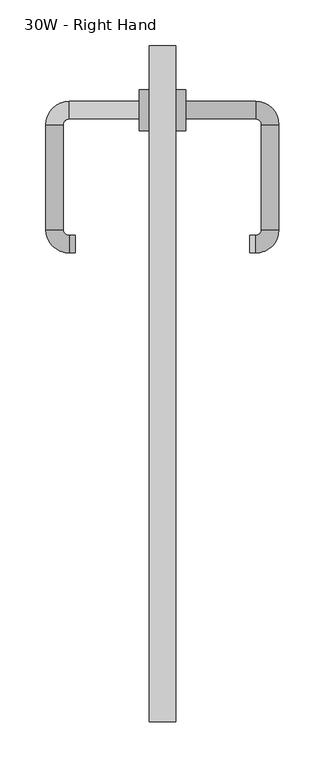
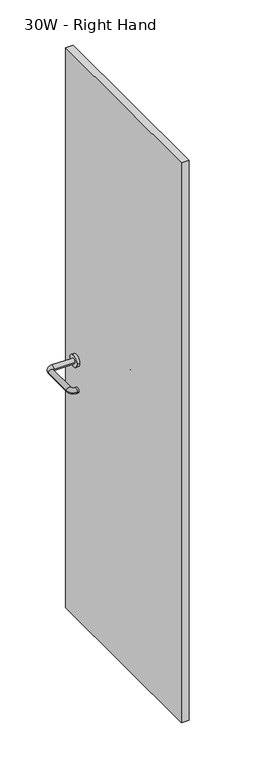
"""IFC4 building model written with IfcOpenShell, lengths in millimetres: furniture geometry, Steelcase - Montage - Door - Hinged Door : 30W - Right Hand."""

from ifc_helpers import new_model, si_unit, point, frame, frame_2d, origin, origin_with_axes, place, context, project, spatial, polyline, circle_curve, ellipse_curve, trimmed, segment, composite_curve, outline, extrude, source, transform, mapped, element, save
from ifc_brep_helpers import plane_surface, cylinder_surface, revolved_surface, advanced_brep


def furniture_30w_right_hand_f435f522(model_context):
    return source(origin(), model_context, "Body", "SolidModel", [
        extrude(outline(polyline([(720.7249996, 774.7000015), (749.2999996, 774.7000015), (749.2999996, 38.1000015), (720.7249996, 38.1000015), (720.7249996, 774.7000015)])), origin_with_axes(), (0.0, 0.0, 1.0), 2171.7),
        advanced_brep(
        [(709.6124996, 714.3750013, 1003.3), (709.6124996, 695.3250013, 1003.3), (633.4124938, 714.3750013, 1003.3), (633.4124938, 695.3250013, 1003.3), (627.0624996, 688.975007, 1003.3), (608.0124996, 688.975007, 1003.3), (608.0124996, 574.6749954, 1003.3), (627.0624996, 574.6749954, 1003.3), (633.4124938, 568.3250012, 1003.3), (633.4124938, 549.2750012, 1003.3), (639.7624996, 549.2750012, 1003.3), (639.7624996, 568.3250012, 1003.3)],
        [
            (0, 1, circle_curve(frame((709.6124996, 704.8500013, 1003.3), z_axis=(1.0, 0.0, 0.0), x_axis=(0.0, -1.0, 0.0)), 9.525)),
            (1, 0, circle_curve(frame((709.6124996, 704.8500013, 1003.3), z_axis=(1.0, 0.0, 0.0), x_axis=(0.0, -1.0, 0.0)), 9.525)),
            (0, 2),
            (2, 3, circle_curve(frame((633.4124938, 704.8500013, 1003.3), z_axis=(1.0, 0.0, 0.0), x_axis=(0.0, -1.0, 0.0)), 9.525)),
            (3, 1),
            (3, 2, circle_curve(frame((633.4124938, 704.8500013, 1003.3), z_axis=(1.0, 0.0, 0.0), x_axis=(0.0, -1.0, 0.0)), 9.525)),
            (4, 3, circle_curve(frame((633.4124938, 688.975007, 1003.3), z_axis=(0.0, 0.0, -1.0), x_axis=(0.0, 1.0, 0.0)), 6.3499943)),
            (2, 5, circle_curve(frame((633.4124938, 688.975007, 1003.3), z_axis=(0.0, 0.0, 1.0), x_axis=(0.0, 1.0, 0.0)), 25.3999943)),
            (5, 4, circle_curve(frame((617.5374996, 688.975007, 1003.3), z_axis=(0.0, 1.0, 0.0), x_axis=(1.0, 0.0, 0.0)), 9.525)),
            (4, 5, circle_curve(frame((617.5374996, 688.975007, 1003.3), z_axis=(0.0, 1.0, 0.0), x_axis=(1.0, 0.0, 0.0)), 9.525)),
            (5, 6),
            (6, 7, circle_curve(frame((617.5374996, 574.6749954, 1003.3), z_axis=(0.0, 1.0, 0.0), x_axis=(1.0, 0.0, 0.0)), 9.525)),
            (7, 4),
            (7, 6, circle_curve(frame((617.5374996, 574.6749954, 1003.3), z_axis=(0.0, 1.0, 0.0), x_axis=(1.0, 0.0, 0.0)), 9.525)),
            (8, 7, circle_curve(frame((633.4124938, 574.6749954, 1003.3), z_axis=(0.0, 0.0, -1.0), x_axis=(-1.0, 0.0, 0.0)), 6.3499943)),
            (6, 9, circle_curve(frame((633.4124938, 574.6749954, 1003.3), z_axis=(0.0, 0.0, 1.0), x_axis=(-1.0, 0.0, 0.0)), 25.3999943)),
            (9, 8, circle_curve(frame((633.4124938, 558.8000012, 1003.3), z_axis=(-1.0, 0.0, 0.0), x_axis=(0.0, 1.0, 0.0)), 9.525)),
            (8, 9, circle_curve(frame((633.4124938, 558.8000012, 1003.3), z_axis=(-1.0, 0.0, 0.0), x_axis=(0.0, 1.0, 0.0)), 9.525)),
            (10, 11, circle_curve(frame((639.7624996, 558.8000012, 1003.3), z_axis=(1.0, 0.0, 0.0), x_axis=(0.0, 1.0, 0.0)), 9.525)),
            (11, 10, circle_curve(frame((639.7624996, 558.8000012, 1003.3), z_axis=(1.0, 0.0, 0.0), x_axis=(0.0, 1.0, 0.0)), 9.525)),
            (9, 10),
            (11, 8),
        ],
        [
            plane_surface(frame((709.6124996, 704.8500013, 1003.3), z_axis=(1.0, 0.0, 0.0), x_axis=(0.0, 0.0, 1.0))),
            cylinder_surface(frame((709.6124996, 704.8500013, 1003.3), z_axis=(1.0, 0.0, 0.0), x_axis=(0.0, -1.0, 0.0)), 9.525),
            revolved_surface(trimmed(ellipse_curve(frame((633.4124938, 704.8500013, 1003.3), z_axis=(1.0, 0.0, 0.0), x_axis=(0.0, -1.0, 0.0)), 9.525, 9.525), [point((633.4124938, 714.3750013, 1003.3))], [point((633.4124938, 695.3250013, 1003.3))], True, "CARTESIAN"), (633.4124938, 688.975007, 1003.3), (0.0, 0.0, 1.0)),
            revolved_surface(trimmed(ellipse_curve(frame((633.4124938, 704.8500013, 1003.3), z_axis=(1.0, 0.0, 0.0), x_axis=(0.0, -1.0, 0.0)), 9.525, 9.525), [point((633.4124938, 695.3250013, 1003.3))], [point((633.4124938, 714.3750013, 1003.3))], True, "CARTESIAN"), (633.4124938, 688.975007, 1003.3), (0.0, 0.0, 1.0)),
            cylinder_surface(frame((617.5374996, 688.975007, 1003.3), z_axis=(0.0, 1.0, 0.0), x_axis=(1.0, 0.0, 0.0)), 9.525),
            revolved_surface(trimmed(ellipse_curve(frame((617.5374996, 574.6749954, 1003.3), z_axis=(0.0, 1.0, 0.0), x_axis=(1.0, 0.0, 0.0)), 9.525, 9.525), [point((608.0124996, 574.6749954, 1003.3))], [point((627.0624996, 574.6749954, 1003.3))], True, "CARTESIAN"), (633.4124938, 574.6749954, 1003.3), (0.0, 0.0, 1.0)),
            revolved_surface(trimmed(ellipse_curve(frame((617.5374996, 574.6749954, 1003.3), z_axis=(0.0, 1.0, 0.0), x_axis=(1.0, 0.0, 0.0)), 9.525, 9.525), [point((627.0624996, 574.6749954, 1003.3))], [point((608.0124996, 574.6749954, 1003.3))], True, "CARTESIAN"), (633.4124938, 574.6749954, 1003.3), (0.0, 0.0, 1.0)),
            plane_surface(frame((639.7624996, 558.8000012, 1003.3), z_axis=(1.0, 0.0, 0.0), x_axis=(0.0, 0.0, 1.0))),
            cylinder_surface(frame((633.4124938, 558.8000012, 1003.3), z_axis=(-1.0, 0.0, 0.0), x_axis=(0.0, 1.0, 0.0)), 9.525),
        ],
        [
            (0, [[1, 2]]),
            (1, [[-1, 3, 4, 5]]),
            (1, [[-2, -5, 6, -3]]),
            (2, [[7, -4, 8, 9]]),
            (3, [[-8, -6, -7, 10]]),
            (4, [[-9, 11, 12, 13]]),
            (4, [[-10, -13, 14, -11]]),
            (5, [[15, -12, 16, 17]]),
            (6, [[-16, -14, -15, 18]]),
            (7, [[19, 20]]),
            (8, [[-17, 21, -20, 22]]),
            (8, [[-18, -22, -19, -21]]),
        ],
    ),
        advanced_brep(
        [(760.4124996, 695.3250017, 1003.3), (760.4124996, 714.3750017, 1003.3), (836.6125054, 695.3250017, 1003.3), (836.6125054, 714.3750017, 1003.3), (862.0125001, 688.975007, 1003.3), (842.9625001, 688.975007, 1003.3), (842.9625001, 574.6749954, 1003.3), (862.0125001, 574.6749954, 1003.3), (836.6125054, 549.2750007, 1003.3), (836.6125054, 568.3250007, 1003.3), (830.2624996, 568.3250007, 1003.3), (830.2624996, 549.2750007, 1003.3)],
        [
            (0, 1, circle_curve(frame((760.4124996, 704.8500017, 1003.3), z_axis=(-1.0, 0.0, 0.0), x_axis=(0.0, 1.0, 0.0)), 9.525)),
            (1, 0, circle_curve(frame((760.4124996, 704.8500017, 1003.3), z_axis=(-1.0, 0.0, 0.0), x_axis=(0.0, 1.0, 0.0)), 9.525)),
            (0, 2),
            (2, 3, circle_curve(frame((836.6125054, 704.8500017, 1003.3), z_axis=(-1.0, 0.0, 0.0), x_axis=(0.0, 1.0, 0.0)), 9.525)),
            (3, 1),
            (3, 2, circle_curve(frame((836.6125054, 704.8500017, 1003.3), z_axis=(-1.0, 0.0, 0.0), x_axis=(0.0, 1.0, 0.0)), 9.525)),
            (4, 3, circle_curve(frame((836.6125054, 688.975007, 1003.3), z_axis=(0.0, 0.0, 1.0), x_axis=(0.0, 1.0, 0.0)), 25.3999947)),
            (2, 5, circle_curve(frame((836.6125054, 688.975007, 1003.3), z_axis=(0.0, 0.0, -1.0), x_axis=(0.0, 1.0, 0.0)), 6.3499947)),
            (5, 4, circle_curve(frame((852.4875001, 688.975007, 1003.3), z_axis=(0.0, 1.0, 0.0), x_axis=(1.0, 0.0, 0.0)), 9.525)),
            (4, 5, circle_curve(frame((852.4875001, 688.975007, 1003.3), z_axis=(0.0, 1.0, 0.0), x_axis=(1.0, 0.0, 0.0)), 9.525)),
            (5, 6),
            (6, 7, circle_curve(frame((852.4875001, 574.6749954, 1003.3), z_axis=(0.0, 1.0, 0.0), x_axis=(1.0, 0.0, 0.0)), 9.525)),
            (7, 4),
            (7, 6, circle_curve(frame((852.4875001, 574.6749954, 1003.3), z_axis=(0.0, 1.0, 0.0), x_axis=(1.0, 0.0, 0.0)), 9.525)),
            (8, 7, circle_curve(frame((836.6125054, 574.6749954, 1003.3), z_axis=(0.0, 0.0, 1.0), x_axis=(1.0, 0.0, 0.0)), 25.3999947)),
            (6, 9, circle_curve(frame((836.6125054, 574.6749954, 1003.3), z_axis=(0.0, 0.0, -1.0), x_axis=(1.0, 0.0, 0.0)), 6.3499947)),
            (9, 8, circle_curve(frame((836.6125054, 558.8000007, 1003.3), z_axis=(1.0, 0.0, 0.0), x_axis=(0.0, -1.0, 0.0)), 9.525)),
            (8, 9, circle_curve(frame((836.6125054, 558.8000007, 1003.3), z_axis=(1.0, 0.0, 0.0), x_axis=(0.0, -1.0, 0.0)), 9.525)),
            (10, 11, circle_curve(frame((830.2624996, 558.8000007, 1003.3), z_axis=(-1.0, 0.0, 0.0), x_axis=(0.0, -1.0, 0.0)), 9.525)),
            (11, 10, circle_curve(frame((830.2624996, 558.8000007, 1003.3), z_axis=(-1.0, 0.0, 0.0), x_axis=(0.0, -1.0, 0.0)), 9.525)),
            (9, 10),
            (11, 8),
        ],
        [
            plane_surface(frame((760.4124996, 704.8500017, 1003.3), z_axis=(-1.0, 0.0, 0.0), x_axis=(0.0, 0.0, 1.0))),
            cylinder_surface(frame((760.4124996, 704.8500017, 1003.3), z_axis=(-1.0, 0.0, 0.0), x_axis=(0.0, 1.0, 0.0)), 9.525),
            revolved_surface(trimmed(ellipse_curve(frame((836.6125054, 704.8500017, 1003.3), z_axis=(-1.0, 0.0, 0.0), x_axis=(0.0, 1.0, 0.0)), 9.525, 9.525), [point((836.6125054, 695.3250017, 1003.3))], [point((836.6125054, 714.3750017, 1003.3))], True, "CARTESIAN"), (836.6125054, 688.975007, 1003.3), (0.0, 0.0, -1.0)),
            revolved_surface(trimmed(ellipse_curve(frame((836.6125054, 704.8500017, 1003.3), z_axis=(-1.0, 0.0, 0.0), x_axis=(0.0, 1.0, 0.0)), 9.525, 9.525), [point((836.6125054, 714.3750017, 1003.3))], [point((836.6125054, 695.3250017, 1003.3))], True, "CARTESIAN"), (836.6125054, 688.975007, 1003.3), (0.0, 0.0, -1.0)),
            cylinder_surface(frame((852.4875001, 688.975007, 1003.3), z_axis=(0.0, 1.0, 0.0), x_axis=(1.0, 0.0, 0.0)), 9.525),
            revolved_surface(trimmed(ellipse_curve(frame((852.4875001, 574.6749954, 1003.3), z_axis=(0.0, 1.0, 0.0), x_axis=(1.0, 0.0, 0.0)), 9.525, 9.525), [point((842.9625001, 574.6749954, 1003.3))], [point((862.0125001, 574.6749954, 1003.3))], True, "CARTESIAN"), (836.6125054, 574.6749954, 1003.3), (0.0, 0.0, -1.0)),
            revolved_surface(trimmed(ellipse_curve(frame((852.4875001, 574.6749954, 1003.3), z_axis=(0.0, 1.0, 0.0), x_axis=(1.0, 0.0, 0.0)), 9.525, 9.525), [point((862.0125001, 574.6749954, 1003.3))], [point((842.9625001, 574.6749954, 1003.3))], True, "CARTESIAN"), (836.6125054, 574.6749954, 1003.3), (0.0, 0.0, -1.0)),
            plane_surface(frame((830.2624996, 558.8000007, 1003.3), z_axis=(-1.0, 0.0, 0.0), x_axis=(0.0, 0.0, 1.0))),
            cylinder_surface(frame((836.6125054, 558.8000007, 1003.3), z_axis=(1.0, 0.0, 0.0), x_axis=(0.0, -1.0, 0.0)), 9.525),
        ],
        [
            (0, [[1, 2]]),
            (1, [[-1, 3, 4, 5]]),
            (1, [[-2, -5, 6, -3]]),
            (2, [[7, -4, 8, 9]]),
            (3, [[-8, -6, -7, 10]]),
            (4, [[-9, 11, 12, 13]]),
            (4, [[-10, -13, 14, -11]]),
            (5, [[15, -12, 16, 17]]),
            (6, [[-16, -14, -15, 18]]),
            (7, [[19, 20]]),
            (8, [[-17, 21, -20, 22]]),
            (8, [[-18, -22, -19, -21]]),
        ],
    ),
        extrude(outline(composite_curve([segment(trimmed(circle_curve(frame_2d((704.8500015, 1003.3)), 22.2250002), [point((682.6250012, 1003.3))], [point((727.0750017, 1003.3))], False, "CARTESIAN"), True, "CONTINUOUS"), segment(trimmed(circle_curve(frame_2d((704.8500015, 1003.3)), 22.2250002), [point((727.0750017, 1003.3))], [point((682.6250012, 1003.3))], False, "CARTESIAN"), True, "CONTINUOUS")], self_intersect=False)), frame((749.2999996, 0.0, 0.0), z_axis=(1.0, 0.0, 0.0), x_axis=(0.0, 1.0, 0.0)), (0.0, 0.0, 1.0), 11.176),
        extrude(outline(composite_curve([segment(trimmed(circle_curve(frame_2d((704.8500015, 1003.3)), 22.2250002), [point((682.6250012, 1003.3))], [point((727.0750017, 1003.3))], False, "CARTESIAN"), True, "CONTINUOUS"), segment(trimmed(circle_curve(frame_2d((704.8500015, 1003.3)), 22.2250002), [point((727.0750017, 1003.3))], [point((682.6250012, 1003.3))], False, "CARTESIAN"), True, "CONTINUOUS")], self_intersect=False)), frame((709.5489996, 0.0, 0.0), z_axis=(1.0, 0.0, 0.0), x_axis=(0.0, 1.0, 0.0)), (0.0, 0.0, 1.0), 11.176),
    ])


if __name__ == "__main__":
    model = new_model("IFC4")
    model_context = context("Model", 3, world=origin())
    ifc_project = project(units=[si_unit("LENGTHUNIT", "METRE", prefix="MILLI")], contexts=[model_context])
    site = spatial("IfcSite", under=ifc_project)
    building = spatial("IfcBuilding", under=site)
    placement = place(None, origin())
    furniture_30w_right_hand_shape = furniture_30w_right_hand_f435f522(model_context)
    element("IfcFurniture", 1, ObjectType="Steelcase - Montage - Door - Hinged Door : 30W - Right Hand", at=placement, inside=building, context=model_context, shape_type="MappedRepresentation", body=[
        mapped(furniture_30w_right_hand_shape, transform((0.0, 0.0, 0.0), x_axis=(1.0, 0.0, 0.0), y_axis=(0.0, 1.0, 0.0), z_axis=(0.0, 0.0, 1.0))),
    ])
    save(model, "model.ifc")
